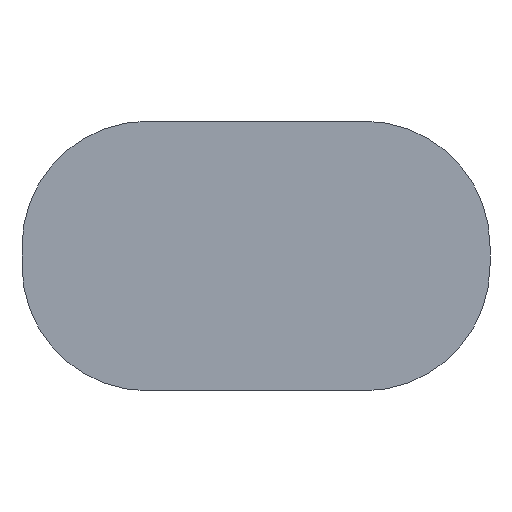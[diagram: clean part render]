
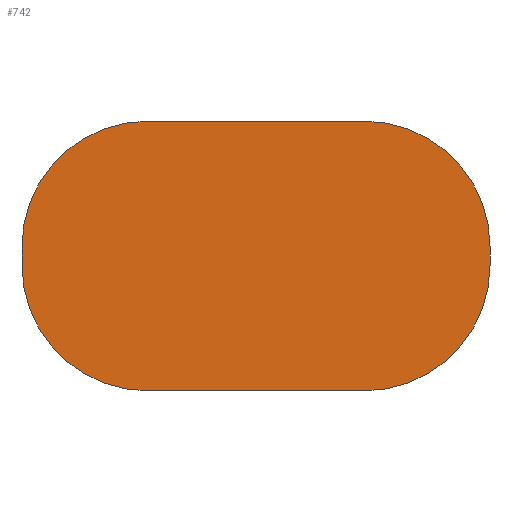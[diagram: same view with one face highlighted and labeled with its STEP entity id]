
A CAD part, left-side view. The second image highlights one B-rep face of the part: STEP entity #742.
In plain terms, the highlighted planar face has unit normal (-1, 0, 0).
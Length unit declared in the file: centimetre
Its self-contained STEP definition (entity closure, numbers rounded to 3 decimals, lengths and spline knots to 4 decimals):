
#37=CIRCLE('',#804,0.53);
#38=CIRCLE('',#806,0.53);
#39=CIRCLE('',#807,0.53);
#40=CIRCLE('',#808,0.53);
#68=FACE_OUTER_BOUND('',#109,.T.);
#109=EDGE_LOOP('',(#563,#564,#565,#566,#567,#568,#569,#570));
#181=LINE('',#1174,#265);
#182=LINE('',#1178,#266);
#183=LINE('',#1182,#267);
#184=LINE('',#1185,#268);
#265=VECTOR('',#943,1.);
#266=VECTOR('',#946,1.);
#267=VECTOR('',#949,1.);
#268=VECTOR('',#952,1.);
#343=VERTEX_POINT('',#1167);
#344=VERTEX_POINT('',#1169);
#345=VERTEX_POINT('',#1173);
#346=VERTEX_POINT('',#1175);
#347=VERTEX_POINT('',#1177);
#348=VERTEX_POINT('',#1179);
#349=VERTEX_POINT('',#1181);
#350=VERTEX_POINT('',#1183);
#429=EDGE_CURVE('',#343,#344,#37,.T.);
#430=EDGE_CURVE('',#344,#345,#181,.T.);
#431=EDGE_CURVE('',#345,#346,#38,.T.);
#432=EDGE_CURVE('',#346,#347,#182,.T.);
#433=EDGE_CURVE('',#347,#348,#39,.T.);
#434=EDGE_CURVE('',#348,#349,#183,.T.);
#435=EDGE_CURVE('',#349,#350,#40,.T.);
#436=EDGE_CURVE('',#350,#343,#184,.T.);
#563=ORIENTED_EDGE('',*,*,#429,.T.);
#564=ORIENTED_EDGE('',*,*,#430,.T.);
#565=ORIENTED_EDGE('',*,*,#431,.T.);
#566=ORIENTED_EDGE('',*,*,#432,.T.);
#567=ORIENTED_EDGE('',*,*,#433,.T.);
#568=ORIENTED_EDGE('',*,*,#434,.T.);
#569=ORIENTED_EDGE('',*,*,#435,.T.);
#570=ORIENTED_EDGE('',*,*,#436,.T.);
#713=PLANE('',#805);
#742=ADVANCED_FACE('',(#68),#713,.F.);
#804=AXIS2_PLACEMENT_3D('',#1171,#939,#940);
#805=AXIS2_PLACEMENT_3D('',#1172,#941,#942);
#806=AXIS2_PLACEMENT_3D('',#1176,#944,#945);
#807=AXIS2_PLACEMENT_3D('',#1180,#947,#948);
#808=AXIS2_PLACEMENT_3D('',#1184,#950,#951);
#939=DIRECTION('center_axis',(-1.,0.,0.));
#940=DIRECTION('ref_axis',(0.,1.,0.));
#941=DIRECTION('center_axis',(1.,0.,0.));
#942=DIRECTION('ref_axis',(0.,1.,0.));
#943=DIRECTION('',(0.,0.,-1.));
#944=DIRECTION('center_axis',(-1.,0.,0.));
#945=DIRECTION('ref_axis',(0.,1.,0.));
#946=DIRECTION('',(0.,-1.,0.));
#947=DIRECTION('center_axis',(-1.,0.,0.));
#948=DIRECTION('ref_axis',(0.,1.,0.));
#949=DIRECTION('',(0.,0.,1.));
#950=DIRECTION('center_axis',(-1.,0.,0.));
#951=DIRECTION('ref_axis',(0.,1.,0.));
#952=DIRECTION('',(0.,1.,0.));
#1167=CARTESIAN_POINT('',(3.28,3.16,-0.26));
#1169=CARTESIAN_POINT('',(3.28,3.69,-0.79));
#1171=CARTESIAN_POINT('Origin',(3.28,3.16,-0.79));
#1172=CARTESIAN_POINT('Origin',(3.28,2.7,-0.83));
#1173=CARTESIAN_POINT('',(3.28,3.69,-0.87));
#1174=CARTESIAN_POINT('',(3.28,3.69,-0.83));
#1175=CARTESIAN_POINT('',(3.28,3.16,-1.4));
#1176=CARTESIAN_POINT('Origin',(3.28,3.16,-0.87));
#1177=CARTESIAN_POINT('',(3.28,2.24,-1.4));
#1178=CARTESIAN_POINT('',(3.28,2.7,-1.4));
#1179=CARTESIAN_POINT('',(3.28,1.71,-0.87));
#1180=CARTESIAN_POINT('Origin',(3.28,2.24,-0.87));
#1181=CARTESIAN_POINT('',(3.28,1.71,-0.79));
#1182=CARTESIAN_POINT('',(3.28,1.71,-0.83));
#1183=CARTESIAN_POINT('',(3.28,2.24,-0.26));
#1184=CARTESIAN_POINT('Origin',(3.28,2.24,-0.79));
#1185=CARTESIAN_POINT('',(3.28,2.7,-0.26));
